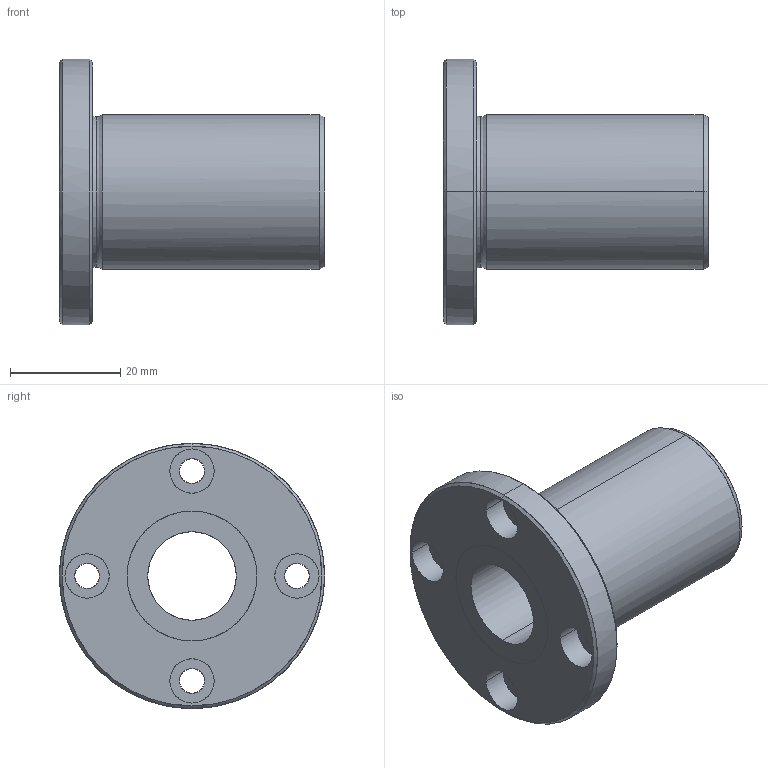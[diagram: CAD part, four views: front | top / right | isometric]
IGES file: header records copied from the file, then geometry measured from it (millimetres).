
Global section: file name: No Iges File Name specified; native system: AutoDesk Inventor R10; preprocessor: AutoDesk Inventor Iges Exporter R10; author: No Author specified; organization: No Organization specified; date: 20101216.172957; units: millimetre
Bounding box: 48 x 48 x 48 mm (x, y, z)
Surface area: 10539.7 mm2 (no closed solid volume)
Topology: 0 solids, 0 shells, 45 faces, 320 edges, 320 vertices
Faces by surface type: bspline 45
